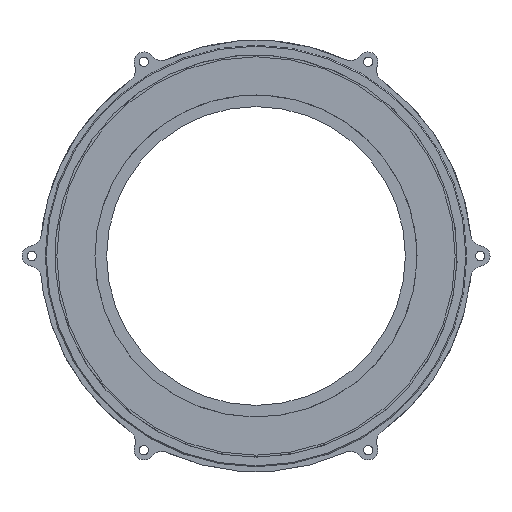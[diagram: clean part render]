
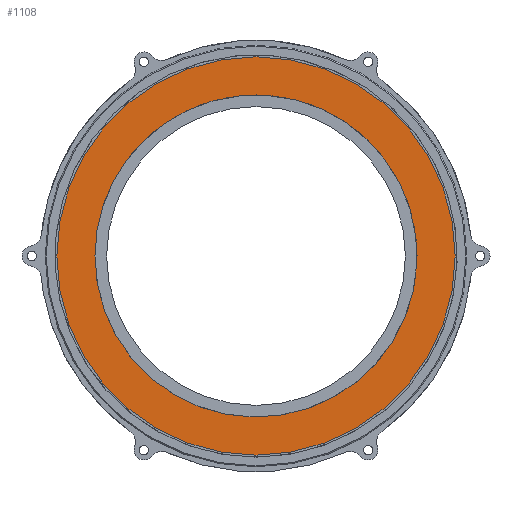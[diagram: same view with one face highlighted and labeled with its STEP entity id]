
A CAD part, left-side view. The second image highlights one B-rep face of the part: STEP entity #1108.
In plain terms, the highlighted planar face has unit normal (-1, 0, 0) as drawn and (0, 0, -1) by its records, which use the part's own axes.
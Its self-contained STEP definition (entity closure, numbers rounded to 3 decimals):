
#1108=ADVANCED_FACE('',(#3310,#3312),#3314,.F.);
#3310=FACE_BOUND('',#3311,.T.);
#3311=EDGE_LOOP('',(#5328));
#3312=FACE_BOUND('',#3313,.T.);
#3313=EDGE_LOOP('',(#5329));
#3314=PLANE('',#3315);
#3315=AXIS2_PLACEMENT_3D('',#3316,#3317,#3318);
#3316=CARTESIAN_POINT('',(0.,0.,0.));
#3317=DIRECTION('',(0.,0.,1.));
#3318=DIRECTION('',(1.,0.,0.));
#5328=ORIENTED_EDGE('',*,*,#6381,.F.);
#5329=ORIENTED_EDGE('',*,*,#6379,.F.);
#6379=EDGE_CURVE('',#7044,#7044,#7045,.T.);
#6381=EDGE_CURVE('',#7048,#7048,#7049,.T.);
#7044=VERTEX_POINT('',#8376);
#7045=CIRCLE('',#8377,48.5);
#7048=VERTEX_POINT('',#8386);
#7049=CIRCLE('',#8387,60.);
#8376=CARTESIAN_POINT('',(48.5,0.,0.));
#8377=AXIS2_PLACEMENT_3D('',#8378,#8379,#8380);
#8378=CARTESIAN_POINT('',(0.,0.,0.));
#8379=DIRECTION('',(0.,0.,-1.));
#8380=DIRECTION('',(1.,0.,0.));
#8386=CARTESIAN_POINT('',(60.,0.,0.));
#8387=AXIS2_PLACEMENT_3D('',#8388,#8389,#8390);
#8388=CARTESIAN_POINT('',(0.,0.,0.));
#8389=DIRECTION('',(0.,0.,1.));
#8390=DIRECTION('',(1.,0.,0.));
